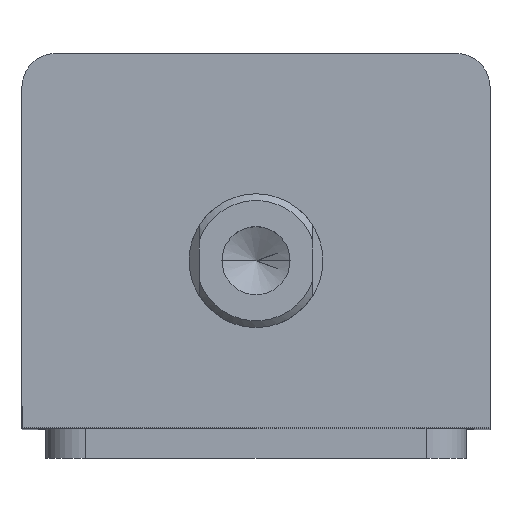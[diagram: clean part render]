
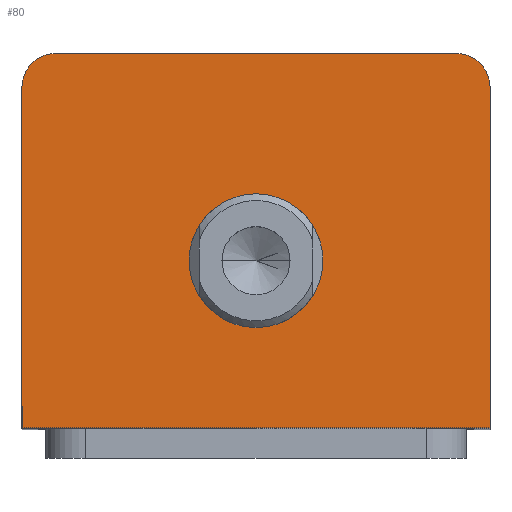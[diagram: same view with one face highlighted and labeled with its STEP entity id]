
A CAD part, top view. The second image highlights one B-rep face of the part: STEP entity #80.
In plain terms, the highlighted planar face has unit normal (0, 0, 1).
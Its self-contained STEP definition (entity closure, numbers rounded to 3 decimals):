
#80 = ADVANCED_FACE ( 'NONE', ( #1054, #1058 ), #2524, .T. ) ;
#252 = AXIS2_PLACEMENT_3D ( 'NONE', #1620, #1619, #1617 ) ;
#254 = AXIS2_PLACEMENT_3D ( 'NONE', #1677, #1676, #1675 ) ;
#278 = AXIS2_PLACEMENT_3D ( 'NONE', #1583, #1579, #1578 ) ;
#302 = AXIS2_PLACEMENT_3D ( 'NONE', #2546, #2545, #2543 ) ;
#704 = EDGE_CURVE ( 'NONE', #2040, #1978, #1110, .T. ) ;
#795 = EDGE_CURVE ( 'NONE', #1971, #1945, #1228, .T. ) ;
#818 = EDGE_CURVE ( 'NONE', #2043, #1925, #1259, .T. ) ;
#833 = EDGE_CURVE ( 'NONE', #1925, #2040, #1293, .T. ) ;
#850 = EDGE_CURVE ( 'NONE', #1978, #1941, #1322, .T. ) ;
#860 = EDGE_CURVE ( 'NONE', #1941, #2033, #1338, .T. ) ;
#864 = EDGE_CURVE ( 'NONE', #2033, #2043, #1344, .T. ) ;
#877 = EDGE_CURVE ( 'NONE', #1945, #1971, #1370, .T. ) ;
#892 = EDGE_LOOP ( 'NONE', ( #3017, #3016, #3015, #3014, #3013, #3012 ) ) ;
#1054 = FACE_BOUND ( 'NONE', #2095, .T. ) ;
#1058 = FACE_OUTER_BOUND ( 'NONE', #892, .T. ) ;
#1110 = CIRCLE ( 'NONE', #302, 5. ) ;
#1228 = CIRCLE ( 'NONE', #278, 10. ) ;
#1259 = LINE ( 'NONE', #1805, #1266 ) ;
#1266 = VECTOR ( 'NONE', #1794, 1000. ) ;
#1293 = LINE ( 'NONE', #1762, #1296 ) ;
#1296 = VECTOR ( 'NONE', #1761, 1000. ) ;
#1322 = LINE ( 'NONE', #1715, #1325 ) ;
#1325 = VECTOR ( 'NONE', #1714, 1000. ) ;
#1338 = CIRCLE ( 'NONE', #254, 5. ) ;
#1344 = LINE ( 'NONE', #1662, #1347 ) ;
#1347 = VECTOR ( 'NONE', #1659, 1000. ) ;
#1370 = CIRCLE ( 'NONE', #252, 10. ) ;
#1442 = CARTESIAN_POINT ( 'NONE',  ( -35., -28., 144. ) ) ;
#1446 = CARTESIAN_POINT ( 'NONE',  ( 35., 23., 144. ) ) ;
#1453 = CARTESIAN_POINT ( 'NONE',  ( -35., 23., 144. ) ) ;
#1523 = CARTESIAN_POINT ( 'NONE',  ( 30., 28., 144. ) ) ;
#1532 = CARTESIAN_POINT ( 'NONE',  ( -10., -3., 144. ) ) ;
#1570 = CARTESIAN_POINT ( 'NONE',  ( 10., -3., 144. ) ) ;
#1574 = CARTESIAN_POINT ( 'NONE',  ( -30., 28., 144. ) ) ;
#1578 = DIRECTION ( 'NONE',  ( 1., 0., 0. ) ) ;
#1579 = DIRECTION ( 'NONE',  ( 0., 0., 1. ) ) ;
#1583 = CARTESIAN_POINT ( 'NONE',  ( 0., -3., 144. ) ) ;
#1594 = CARTESIAN_POINT ( 'NONE',  ( 35., -28., 144. ) ) ;
#1617 = DIRECTION ( 'NONE',  ( 1., 0., 0. ) ) ;
#1619 = DIRECTION ( 'NONE',  ( 0., 0., 1. ) ) ;
#1620 = CARTESIAN_POINT ( 'NONE',  ( 0., -3., 144. ) ) ;
#1659 = DIRECTION ( 'NONE',  ( 0., -1., 0. ) ) ;
#1662 = CARTESIAN_POINT ( 'NONE',  ( -35., 28., 144. ) ) ;
#1675 = DIRECTION ( 'NONE',  ( 1., 0., 0. ) ) ;
#1676 = DIRECTION ( 'NONE',  ( 0., 0., 1. ) ) ;
#1677 = CARTESIAN_POINT ( 'NONE',  ( -30., 23., 144. ) ) ;
#1714 = DIRECTION ( 'NONE',  ( -1., 0., 0. ) ) ;
#1715 = CARTESIAN_POINT ( 'NONE',  ( -35., 28., 144. ) ) ;
#1761 = DIRECTION ( 'NONE',  ( 0., 1., 0. ) ) ;
#1762 = CARTESIAN_POINT ( 'NONE',  ( 35., 28., 144. ) ) ;
#1794 = DIRECTION ( 'NONE',  ( 1., 0., 0. ) ) ;
#1805 = CARTESIAN_POINT ( 'NONE',  ( -35., -28., 144. ) ) ;
#1925 = VERTEX_POINT ( 'NONE', #1594 ) ;
#1941 = VERTEX_POINT ( 'NONE', #1574 ) ;
#1945 = VERTEX_POINT ( 'NONE', #1570 ) ;
#1971 = VERTEX_POINT ( 'NONE', #1532 ) ;
#1978 = VERTEX_POINT ( 'NONE', #1523 ) ;
#2033 = VERTEX_POINT ( 'NONE', #1453 ) ;
#2040 = VERTEX_POINT ( 'NONE', #1446 ) ;
#2043 = VERTEX_POINT ( 'NONE', #1442 ) ;
#2095 = EDGE_LOOP ( 'NONE', ( #3019, #3018 ) ) ;
#2199 = AXIS2_PLACEMENT_3D ( 'NONE', #2520, #2516, #2512 ) ;
#2512 = DIRECTION ( 'NONE',  ( 1., 0., 0. ) ) ;
#2516 = DIRECTION ( 'NONE',  ( 0., 0., 1. ) ) ;
#2520 = CARTESIAN_POINT ( 'NONE',  ( 0., 0., 144. ) ) ;
#2524 = PLANE ( 'NONE',  #2199 ) ;
#2543 = DIRECTION ( 'NONE',  ( 1., 0., 0. ) ) ;
#2545 = DIRECTION ( 'NONE',  ( 0., 0., 1. ) ) ;
#2546 = CARTESIAN_POINT ( 'NONE',  ( 30., 23., 144. ) ) ;
#3012 = ORIENTED_EDGE ( 'NONE', *, *, #818, .T. ) ;
#3013 = ORIENTED_EDGE ( 'NONE', *, *, #864, .T. ) ;
#3014 = ORIENTED_EDGE ( 'NONE', *, *, #860, .T. ) ;
#3015 = ORIENTED_EDGE ( 'NONE', *, *, #850, .T. ) ;
#3016 = ORIENTED_EDGE ( 'NONE', *, *, #704, .T. ) ;
#3017 = ORIENTED_EDGE ( 'NONE', *, *, #833, .T. ) ;
#3018 = ORIENTED_EDGE ( 'NONE', *, *, #795, .F. ) ;
#3019 = ORIENTED_EDGE ( 'NONE', *, *, #877, .F. ) ;
